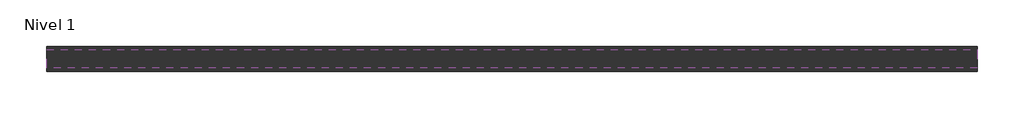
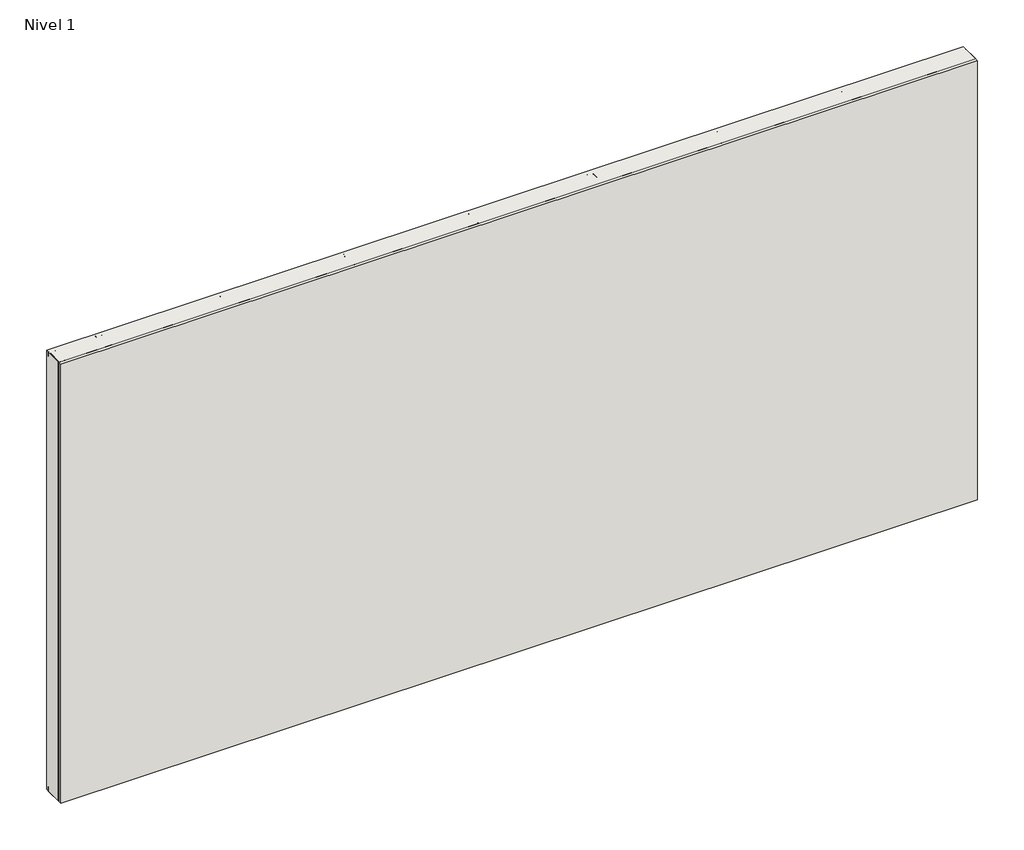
# One storey: 11 proxies, 1 wall.
"""IFC4 building model written with IfcOpenShell, lengths in millimetres."""

from ifc_helpers import new_model, si_unit, origin, origin_with_axes, place, context, project, spatial, polyline, outline, extrude, transform, mapped, element, save
from components import generic_models_e4a0fb4d, generic_models_b564b728, generic_models_f0361e2c

model = new_model("IFC4")

# Units and contexts
model_context = context("Model", 3, world=origin())
ifc_project = project(units=[si_unit("LENGTHUNIT", "METRE", prefix="MILLI")], contexts=[model_context])

# Site, building, storey
site = spatial("IfcSite", under=ifc_project)
building = spatial("IfcBuilding", under=site)
storey = spatial("IfcBuildingStorey", under=building, Name="Nivel 1", Elevation=0.0)

# Proxies
placement = place(None, origin())
generic_models_shape = generic_models_e4a0fb4d(model_context)
element("IfcBuildingElementProxy", 1, Name="SICON Stud 3 5-8 : SICON Stud 3 5/8", ObjectType="SICON Stud 3 5-8 : SICON Stud 3 5/8", at=placement, inside=storey, context=model_context, shape_type="MappedRepresentation", body=[
    mapped(generic_models_shape, transform((-9484.7860534, 286.8814337, -3.0), x_axis=(1.0, 0.0, 0.0), y_axis=(0.0, 1.0, 0.0), z_axis=(0.0, 0.0, 1.0))),
])
element("IfcBuildingElementProxy", 2, Name="SICON Stud 3 5-8 : SICON Stud 3 5/8", ObjectType="SICON Stud 3 5-8 : SICON Stud 3 5/8", at=placement, inside=storey, context=model_context, shape_type="MappedRepresentation", body=[
    mapped(generic_models_shape, transform((-9254.7860534, 286.8814337, -3.0), x_axis=(1.0, 0.0, 0.0), y_axis=(0.0, 1.0, 0.0), z_axis=(0.0, 0.0, 1.0))),
])
element("IfcBuildingElementProxy", 3, Name="SICON Stud 3 5-8 : SICON Stud 3 5/8", ObjectType="SICON Stud 3 5-8 : SICON Stud 3 5/8", at=placement, inside=storey, context=model_context, shape_type="MappedRepresentation", body=[
    mapped(generic_models_shape, transform((-8668.7553954, 286.8814337, -4.0), x_axis=(-1.0, 0.0, 0.0), y_axis=(0.0, -1.0, 0.0), z_axis=(0.0, 0.0, 1.0))),
])
element("IfcBuildingElementProxy", 4, Name="SICON Stud 3 5-8 : SICON Stud 3 5/8", ObjectType="SICON Stud 3 5-8 : SICON Stud 3 5/8", at=placement, inside=storey, context=model_context, shape_type="MappedRepresentation", body=[
    mapped(generic_models_shape, transform((-5008.7553954, 286.8814337, -4.0), x_axis=(-1.0, 0.0, 0.0), y_axis=(0.0, -1.0, 0.0), z_axis=(0.0, 0.0, 1.0))),
])
element("IfcBuildingElementProxy", 5, Name="SICON Stud 3 5-8 : SICON Stud 3 5/8", ObjectType="SICON Stud 3 5-8 : SICON Stud 3 5/8", at=placement, inside=storey, context=model_context, shape_type="MappedRepresentation", body=[
    mapped(generic_models_shape, transform((-8058.7553954, 286.8814337, -4.0), x_axis=(-1.0, 0.0, 0.0), y_axis=(0.0, -1.0, 0.0), z_axis=(0.0, 0.0, 1.0))),
])
element("IfcBuildingElementProxy", 6, Name="SICON Stud 3 5-8 : SICON Stud 3 5/8", ObjectType="SICON Stud 3 5-8 : SICON Stud 3 5/8", at=placement, inside=storey, context=model_context, shape_type="MappedRepresentation", body=[
    mapped(generic_models_shape, transform((-7448.7553954, 286.8814337, -4.0), x_axis=(-1.0, 0.0, 0.0), y_axis=(0.0, -1.0, 0.0), z_axis=(0.0, 0.0, 1.0))),
])
element("IfcBuildingElementProxy", 7, Name="SICON Stud 3 5-8 : SICON Stud 3 5/8", ObjectType="SICON Stud 3 5-8 : SICON Stud 3 5/8", at=placement, inside=storey, context=model_context, shape_type="MappedRepresentation", body=[
    mapped(generic_models_shape, transform((-6838.7553954, 286.8814337, -4.0), x_axis=(-1.0, 0.0, 0.0), y_axis=(0.0, -1.0, 0.0), z_axis=(0.0, 0.0, 1.0))),
])
element("IfcBuildingElementProxy", 8, Name="SICON Stud 3 5-8 : SICON Stud 3 5/8", ObjectType="SICON Stud 3 5-8 : SICON Stud 3 5/8", at=placement, inside=storey, context=model_context, shape_type="MappedRepresentation", body=[
    mapped(generic_models_shape, transform((-6228.7553954, 286.8814337, -4.0), x_axis=(-1.0, 0.0, 0.0), y_axis=(0.0, -1.0, 0.0), z_axis=(0.0, 0.0, 1.0))),
])
element("IfcBuildingElementProxy", 9, Name="SICON Stud 3 5-8 : SICON Stud 3 5/8", ObjectType="SICON Stud 3 5-8 : SICON Stud 3 5/8", at=placement, inside=storey, context=model_context, shape_type="MappedRepresentation", body=[
    mapped(generic_models_shape, transform((-5618.7553954, 286.8814337, -4.0), x_axis=(-1.0, 0.0, 0.0), y_axis=(0.0, -1.0, 0.0), z_axis=(0.0, 0.0, 1.0))),
])
generic_models_2_shape = generic_models_b564b728(model_context)
element("IfcBuildingElementProxy", 10, Name="SICON Track Inferior 3 5-8 : SICON Track inferior 3 5/8", ObjectType="SICON Track Inferior 3 5-8 : SICON Track inferior 3 5/8", at=placement, inside=storey, context=model_context, shape_type="MappedRepresentation", body=[
    mapped(generic_models_2_shape, transform((-4994.1960673, 286.8814337, -1.0), x_axis=(-1.0, 0.0, 0.0), y_axis=(0.0, -1.0, 0.0), z_axis=(0.0, 0.0, 1.0))),
])
generic_models_3_shape = generic_models_f0361e2c(model_context)
element("IfcBuildingElementProxy", 11, Name="SICON Track Superior 3 5-8 : SICON Track Superior 3 5/8", ObjectType="SICON Track Superior 3 5-8 : SICON Track Superior 3 5/8", at=placement, inside=storey, context=model_context, shape_type="MappedRepresentation", body=[
    mapped(generic_models_3_shape, transform((-4994.1960673, 286.8814337, 2278.2693648), x_axis=(-1.0, 0.0, 0.0), y_axis=(0.0, -1.0, 0.0), z_axis=(0.0, 0.0, 1.0))),
])

# Wall
element("IfcWall", 12, ObjectType="SICON Ensamble 3 5/8", at=placement, inside=storey, context=model_context, shape_type="SweptSolid", body=[
    extrude(outline(polyline([(-4996.7707244, 226.3814337), (-9496.7707244, 226.3814337), (-9496.7707244, 347.3814337), (-4996.7707244, 347.3814337), (-4996.7707244, 226.3814337)])), origin_with_axes(), (0.0, 0.0, 1.0), 2278.2693648),
])

save(model, "model.ifc")
